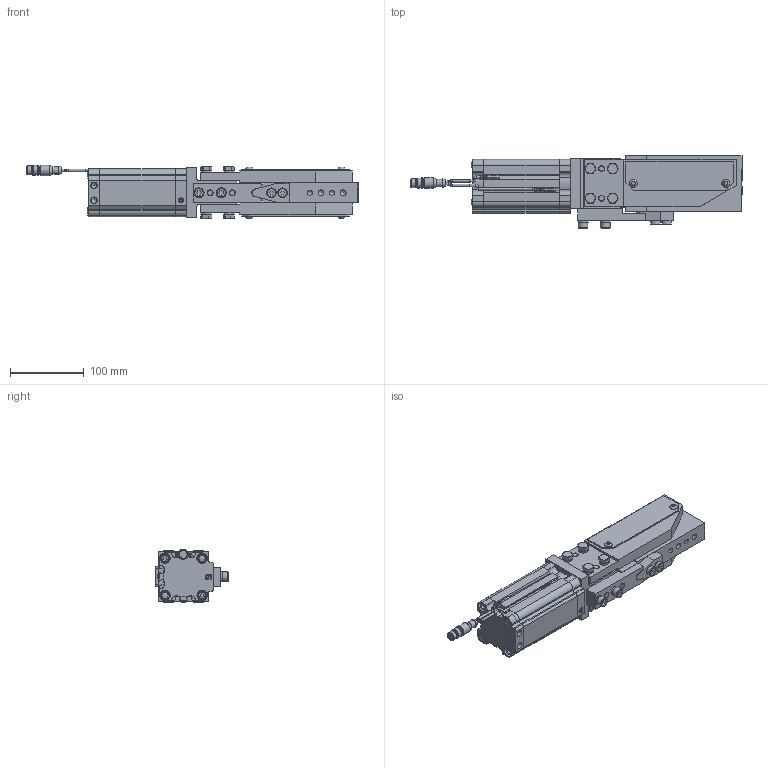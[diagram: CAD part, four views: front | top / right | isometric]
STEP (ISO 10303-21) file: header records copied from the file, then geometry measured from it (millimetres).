
FILE_DESCRIPTION(/* description */ ('BODY'),/* implementation_level */ '2;1');
FILE_NAME(/* name */ 'C:\Users\dholt\Desktop\MST030A300AL01A000.stp',/* time_stamp */ '2015-07-31T09:52:19-04:00',/* author */ ('DHolt'),/* organization */ (''),/* preprocessor_version */ 'ST-DEVELOPER v15.2',/* originating_system */ 'Autodesk Inventor 2014',/* authorisation */ '');
FILE_SCHEMA (('AUTOMOTIVE_DESIGN { 1 0 10303 214 3 1 1 }'));
Products named in the file (45): WCW2148E02-075; MPE30E03N; MPE30E03G; MPE30E09; MPE30E06; MPE30E07; MPE30E08; MPE30E12; WCW2148E04; WCW2148E01; FEF-405-1; GSI-1214-16; M8X1.25-25 HEX; NL8; 5905K133; 0.062-27 NPT PLUG; PLH005A; MA1500x2.00DIA; MC0750X1000-125N; OR-032-RADIAL; OR-011-FACE; MOR-2.0X016.0bn70; TSP-326BN70; TSR-075BN70; TSI-1214-06; M5X0.8-120 SHCS; M6X1-10 BHCS; 0.500X2.250 DOWEL; 0.500X1.000 DOWEL; NL5SP; MPC_BIM-UNT-Cable-50 STK; MPS_BIM-UNT-Cable2; CONNECTOR; MPS L0 SWITCH ASSY-50; M6X1-135 SHCS; NL6; MSTE01; MSTE02; 8mmX25 DOWEL; M8X1.25-30 SHCS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
Bounding box: 448.88 x 98.03 x 72.52 mm (x, y, z)
Volume: 1272013.8 mm3; surface area: 414654.3 mm2
Topology: 178 solids, 180 shells, 1735 faces, 3589 edges, 2333 vertices
Faces by surface type: plane 909, cylinder 566, cone 181, bspline 39, torus 38, sphere 2
Full cylindrical faces by diameter (mm): 0.01 x1, 0.397 x88, 1.191 x4, 1.587 x44, 1.9 x2, 2.6 x2, 3.175 x8, 3.2 x6, 4 x2, 4.134 x2, 4.917 x12, 5 x6, 5.4 x2, 5.944 x1, 6 x11, 6.5 x16, 6.647 x14, 7.5 x4, 7.95 x2, 8 x39, 8.05 x2, 8.5 x12, 8.7 x10, 9 x2, 9.6 x1, 10 x2, 10.2 x1, 10.49 x1, 10.5 x4, 10.8 x2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
Entity records: 30768 total; most frequent: CARTESIAN_POINT 6079, DIRECTION 5153, ORIENTED_EDGE 4064, AXIS2_PLACEMENT_3D 2052, EDGE_CURVE 2031, EDGE_LOOP 1715, VERTEX_POINT 1520, ADVANCED_FACE 1093
